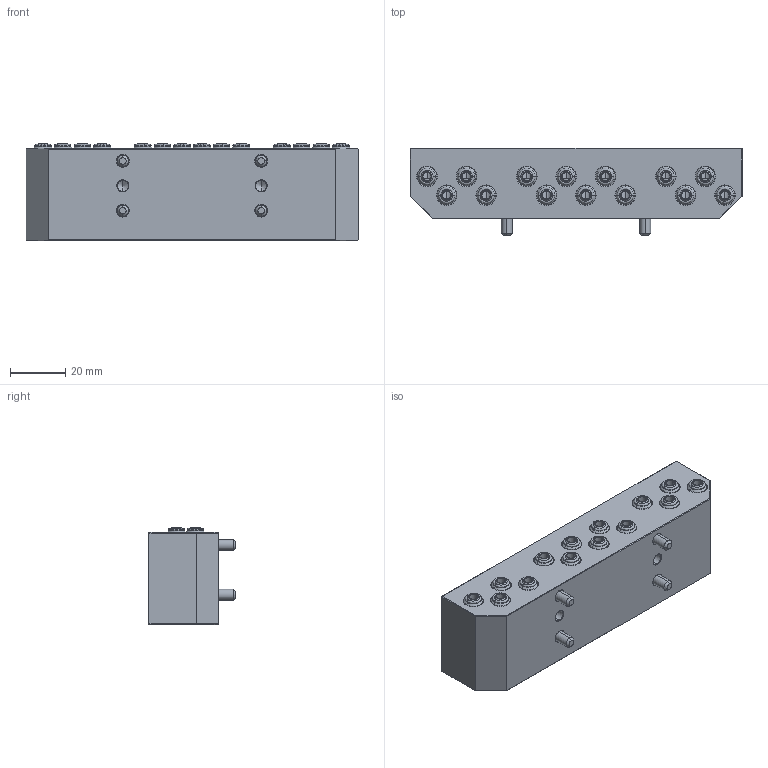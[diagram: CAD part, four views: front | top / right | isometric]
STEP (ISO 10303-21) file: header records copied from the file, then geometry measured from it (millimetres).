
FILE_DESCRIPTION (( 'STEP AP203' ), '1' );
FILE_NAME ('1QCAM-14M5R.STEP', '2024-03-14T08:25:37', ( '微软用户' ), ( '微软中国' ), 'SwSTEP 2.0', 'SolidWorks 2018', '' );
FILE_SCHEMA (( 'CONFIG_CONTROL_DESIGN' ));
Length unit declared in the file: millimetre
Products named in the file (1): 1QCAM-14M5R
Bounding box: 120 x 31.5 x 35.07 mm (x, y, z)
Volume: 94024 mm3; surface area: 24789.6 mm2
Topology: 1 solids, 15 shells, 640 faces, 1420 edges, 814 vertices
Faces by surface type: cone 236, cylinder 204, plane 136, bspline 64
Entity records: 18793 total; most frequent: CARTESIAN_POINT 4625, DIRECTION 3148, ORIENTED_EDGE 2776, EDGE_CURVE 1388, AXIS2_PLACEMENT_3D 1275, VERTEX_POINT 814, EDGE_LOOP 732, CIRCLE 698
